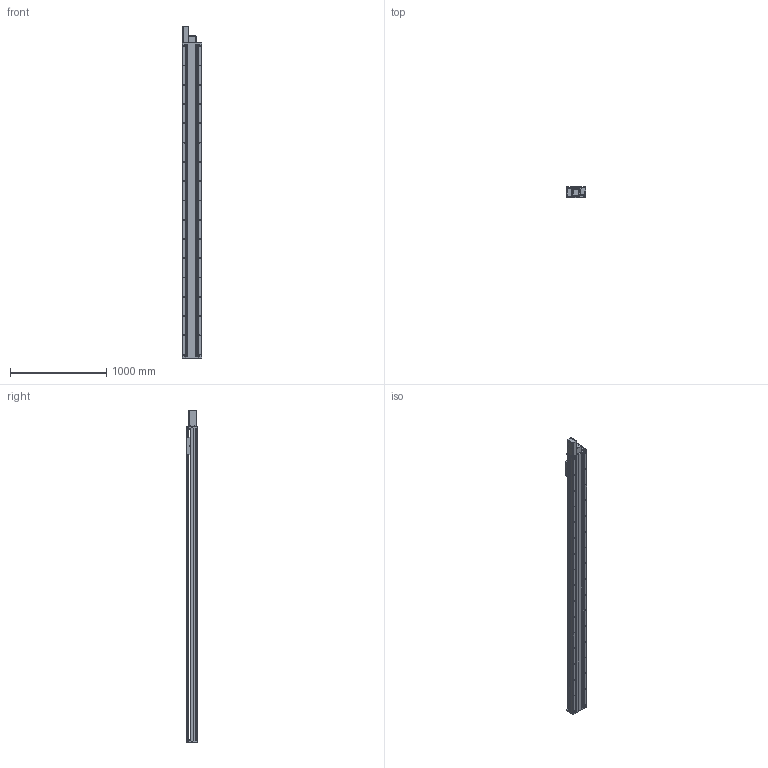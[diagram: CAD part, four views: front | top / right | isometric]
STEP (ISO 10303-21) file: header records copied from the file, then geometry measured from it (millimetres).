
FILE_DESCRIPTION(/* description */ (''),/* implementation_level */ '2;1');
FILE_NAME(/* name */ 'TKB200-FR-3000_asm1.stp',/* time_stamp */ '2016-05-18T11:11:59+08:00',/* author */ (''),/* organization */ (''),/* preprocessor_version */ 'ST-DEVELOPER v15',/* originating_system */ 'SIEMENS PLM Software NX 8.5',/* authorisation */ '');
FILE_SCHEMA (('AUTOMOTIVE_DESIGN { 1 0 10303 214 3 1 1 1 }'));
Length unit declared in the file: millimetre
Products named in the file (3): 200-2; 200-1; TKB200-FR-3000_asm1
Assembly tree (2 placements, depth 2):
  TKB200-FR-3000_asm1
    200-1
    200-2
Bounding box: 200 x 115 x 3445 mm (x, y, z)
Volume: 19234088.7 mm3; surface area: 6252636.1 mm2
Topology: 2 solids, 3 shells, 1157 faces, 3417 edges, 2207 vertices
Faces by surface type: cylinder 580, plane 491, cone 70, bspline 16
Full cylindrical faces by diameter (mm): 2.5 x2, 3.3 x16, 4.3 x4, 4.5 x8, 5 x2, 6.6 x34, 6.8 x8, 8 x6, 9 x42, 10 x4, 11 x22, 12 x16, 14 x34, 75 x1
Entity records: 42363 total; most frequent: CARTESIAN_POINT 12804, ORIENTED_EDGE 6046, DIRECTION 5925, EDGE_CURVE 3023, AXIS2_PLACEMENT_3D 2170, VERTEX_POINT 2084, EDGE_LOOP 1633, LINE 1585
